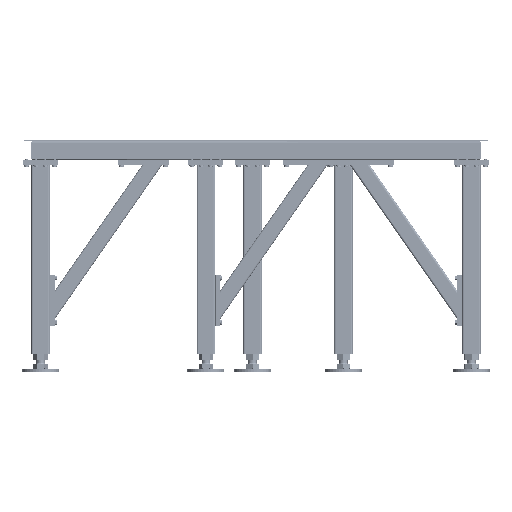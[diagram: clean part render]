
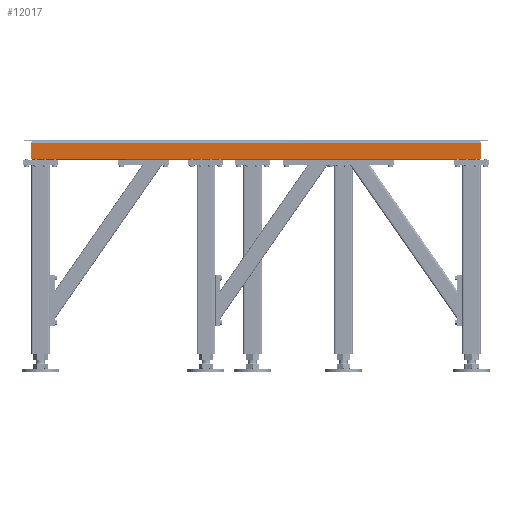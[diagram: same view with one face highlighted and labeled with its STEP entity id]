
A CAD part, left-side view. The second image highlights one B-rep face of the part: STEP entity #12017.
In plain terms, the highlighted planar face has unit normal (-1, 0, 0).
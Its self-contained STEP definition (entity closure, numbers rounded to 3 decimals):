
#435 = DIRECTION ( 'NONE',  ( 0., 1., 0. ) ) ;
#1069 = LINE ( 'NONE', #52885, #38867 ) ;
#1230 = DIRECTION ( 'NONE',  ( 0., 0., -1. ) ) ;
#2452 = VERTEX_POINT ( 'NONE', #26282 ) ;
#11715 = ORIENTED_EDGE ( 'NONE', *, *, #71072, .F. ) ;
#12017 = ADVANCED_FACE ( 'NONE', ( #76792 ), #41713, .F. ) ;
#14096 = CARTESIAN_POINT ( 'NONE',  ( 31860., 33150., 34. ) ) ;
#14463 = CARTESIAN_POINT ( 'NONE',  ( 31860., 35040., 34. ) ) ;
#14975 = DIRECTION ( 'NONE',  ( 1., 0., 0. ) ) ;
#15104 = EDGE_CURVE ( 'NONE', #45413, #20341, #1069, .T. ) ;
#18443 = ORIENTED_EDGE ( 'NONE', *, *, #28753, .F. ) ;
#18652 = LINE ( 'NONE', #27957, #84939 ) ;
#20341 = VERTEX_POINT ( 'NONE', #14463 ) ;
#21262 = LINE ( 'NONE', #33481, #64399 ) ;
#26282 = CARTESIAN_POINT ( 'NONE',  ( 31860., 33110., -34. ) ) ;
#26339 = AXIS2_PLACEMENT_3D ( 'NONE', #14096, #14975, #1230 ) ;
#27957 = CARTESIAN_POINT ( 'NONE',  ( 31860., 33150., -34. ) ) ;
#28753 = EDGE_CURVE ( 'NONE', #2452, #29033, #18652, .T. ) ;
#29033 = VERTEX_POINT ( 'NONE', #37340 ) ;
#30961 = ORIENTED_EDGE ( 'NONE', *, *, #15104, .T. ) ;
#33481 = CARTESIAN_POINT ( 'NONE',  ( 31860., 33110., 34. ) ) ;
#37340 = CARTESIAN_POINT ( 'NONE',  ( 31860., 35040., -34. ) ) ;
#38867 = VECTOR ( 'NONE', #66958, 1000. ) ;
#41695 = DIRECTION ( 'NONE',  ( 0., 0., 1. ) ) ;
#41713 = PLANE ( 'NONE',  #26339 ) ;
#45413 = VERTEX_POINT ( 'NONE', #63336 ) ;
#46993 = DIRECTION ( 'NONE',  ( 0., 0., -1. ) ) ;
#52702 = EDGE_CURVE ( 'NONE', #29033, #20341, #86640, .T. ) ;
#52885 = CARTESIAN_POINT ( 'NONE',  ( 31860., 33150., 34. ) ) ;
#61634 = CARTESIAN_POINT ( 'NONE',  ( 31860., 35040., 34. ) ) ;
#62383 = VECTOR ( 'NONE', #41695, 1000. ) ;
#63336 = CARTESIAN_POINT ( 'NONE',  ( 31860., 33110., 34. ) ) ;
#64399 = VECTOR ( 'NONE', #46993, 1000. ) ;
#66891 = ORIENTED_EDGE ( 'NONE', *, *, #52702, .F. ) ;
#66958 = DIRECTION ( 'NONE',  ( 0., 1., 0. ) ) ;
#69962 = EDGE_LOOP ( 'NONE', ( #66891, #18443, #11715, #30961 ) ) ;
#71072 = EDGE_CURVE ( 'NONE', #45413, #2452, #21262, .T. ) ;
#76792 = FACE_OUTER_BOUND ( 'NONE', #69962, .T. ) ;
#84939 = VECTOR ( 'NONE', #435, 1000. ) ;
#86640 = LINE ( 'NONE', #61634, #62383 ) ;
